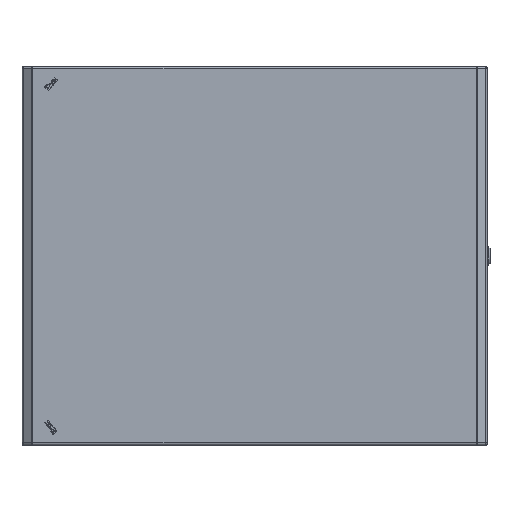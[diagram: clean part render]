
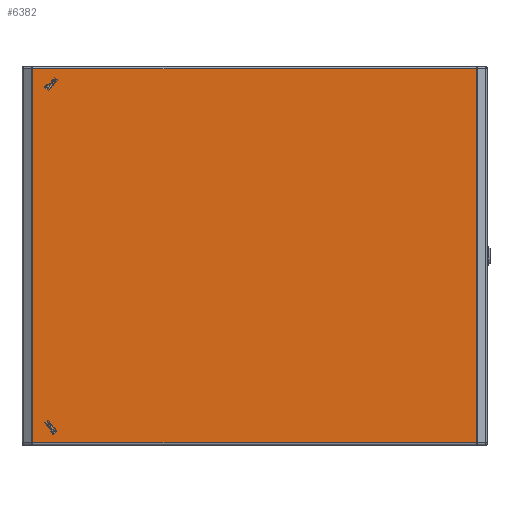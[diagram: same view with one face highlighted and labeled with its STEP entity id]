
A CAD part, top view. The second image highlights one B-rep face of the part: STEP entity #6382.
In plain terms, the highlighted planar face has unit normal (0, 0, 1).
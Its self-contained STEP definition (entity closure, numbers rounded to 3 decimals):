
#127 = EDGE_LOOP ( 'NONE', ( #14918, #10186, #19297, #9071 ) ) ;
#232 = VERTEX_POINT ( 'NONE', #20042 ) ;
#873 = VERTEX_POINT ( 'NONE', #27244 ) ;
#1850 = VERTEX_POINT ( 'NONE', #4557 ) ;
#3190 = DIRECTION ( 'NONE',  ( 1., 0., 0. ) ) ;
#3281 = DIRECTION ( 'NONE',  ( 0., 1., 0. ) ) ;
#4557 = CARTESIAN_POINT ( 'NONE',  ( 321.794, 271.35, 26.5 ) ) ;
#5627 = PLANE ( 'NONE',  #15109 ) ;
#6382 = ADVANCED_FACE ( 'NONE', ( #8558 ), #5627, .T. ) ;
#8209 = DIRECTION ( 'NONE',  ( -1., 0., 0. ) ) ;
#8263 = DIRECTION ( 'NONE',  ( 0., -1., 0. ) ) ;
#8558 = FACE_OUTER_BOUND ( 'NONE', #127, .T. ) ;
#8730 = DIRECTION ( 'NONE',  ( 1., 0., 0. ) ) ;
#8896 = VECTOR ( 'NONE', #3281, 1000. ) ;
#9071 = ORIENTED_EDGE ( 'NONE', *, *, #14001, .T. ) ;
#9319 = LINE ( 'NONE', #16626, #8896 ) ;
#10186 = ORIENTED_EDGE ( 'NONE', *, *, #14179, .T. ) ;
#11736 = VERTEX_POINT ( 'NONE', #24563 ) ;
#14001 = EDGE_CURVE ( 'NONE', #1850, #11736, #30942, .T. ) ;
#14179 = EDGE_CURVE ( 'NONE', #873, #232, #25950, .T. ) ;
#14918 = ORIENTED_EDGE ( 'NONE', *, *, #24529, .T. ) ;
#15109 = AXIS2_PLACEMENT_3D ( 'NONE', #15866, #25774, #3190 ) ;
#15866 = CARTESIAN_POINT ( 'NONE',  ( 336.85, -274.35, 26.5 ) ) ;
#16160 = CARTESIAN_POINT ( 'NONE',  ( -322.75, 271.35, 26.5 ) ) ;
#16626 = CARTESIAN_POINT ( 'NONE',  ( 321.794, -274.35, 26.5 ) ) ;
#19165 = VECTOR ( 'NONE', #8730, 1000. ) ;
#19297 = ORIENTED_EDGE ( 'NONE', *, *, #31722, .T. ) ;
#20042 = CARTESIAN_POINT ( 'NONE',  ( 321.794, -271.35, 26.5 ) ) ;
#20456 = LINE ( 'NONE', #23369, #26789 ) ;
#23369 = CARTESIAN_POINT ( 'NONE',  ( -321.794, -274.35, 26.5 ) ) ;
#23524 = CARTESIAN_POINT ( 'NONE',  ( 322.75, -271.35, 26.5 ) ) ;
#24529 = EDGE_CURVE ( 'NONE', #11736, #873, #20456, .T. ) ;
#24563 = CARTESIAN_POINT ( 'NONE',  ( -321.794, 271.35, 26.5 ) ) ;
#25774 = DIRECTION ( 'NONE',  ( 0., 0., 1. ) ) ;
#25950 = LINE ( 'NONE', #23524, #19165 ) ;
#26789 = VECTOR ( 'NONE', #8263, 1000. ) ;
#27244 = CARTESIAN_POINT ( 'NONE',  ( -321.794, -271.35, 26.5 ) ) ;
#29566 = VECTOR ( 'NONE', #8209, 1000. ) ;
#30942 = LINE ( 'NONE', #16160, #29566 ) ;
#31722 = EDGE_CURVE ( 'NONE', #232, #1850, #9319, .T. ) ;
